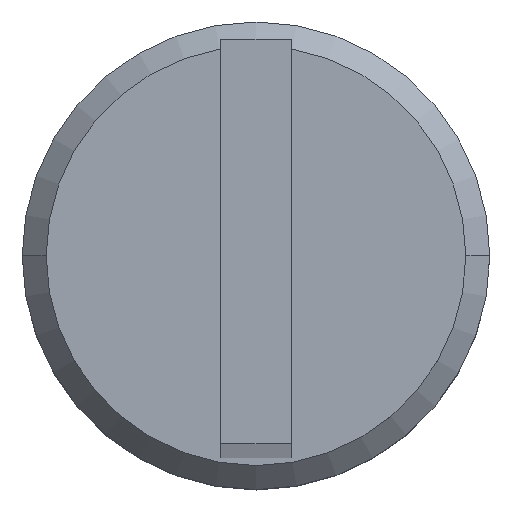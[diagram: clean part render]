
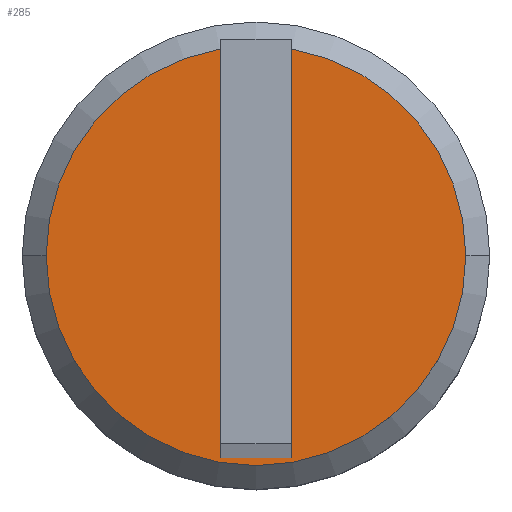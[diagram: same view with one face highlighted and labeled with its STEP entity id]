
A CAD part, top view. The second image highlights one B-rep face of the part: STEP entity #285.
In plain terms, the highlighted planar face has unit normal (0, 0, 1).
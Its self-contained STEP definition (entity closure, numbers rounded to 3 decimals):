
#96 = DIRECTION ( 'NONE',  ( 0., 0., 1. ) ) ;
#97 = CARTESIAN_POINT ( 'NONE',  ( 0., 0., 10. ) ) ;
#260 = EDGE_CURVE ( 'NONE', #1039, #1061, #351, .T. ) ;
#285 = ADVANCED_FACE ( 'NONE', ( #300 ), #1741, .F. ) ;
#297 = EDGE_CURVE ( 'NONE', #1061, #1039, #1159, .T. ) ;
#300 = FACE_OUTER_BOUND ( 'NONE', #1019, .T. ) ;
#351 = CIRCLE ( 'NONE', #1682, 7.475 ) ;
#422 = ORIENTED_EDGE ( 'NONE', *, *, #297, .T. ) ;
#423 = ORIENTED_EDGE ( 'NONE', *, *, #260, .T. ) ;
#672 = DIRECTION ( 'NONE',  ( 1., 0., 0. ) ) ;
#1019 = EDGE_LOOP ( 'NONE', ( #423, #422 ) ) ;
#1039 = VERTEX_POINT ( 'NONE', #1495 ) ;
#1061 = VERTEX_POINT ( 'NONE', #1513 ) ;
#1159 = CIRCLE ( 'NONE', #1353, 7.475 ) ;
#1353 = AXIS2_PLACEMENT_3D ( 'NONE', #1629, #1624, #1616 ) ;
#1465 = AXIS2_PLACEMENT_3D ( 'NONE', #1714, #1713, #1711 ) ;
#1495 = CARTESIAN_POINT ( 'NONE',  ( 7.475, 0., 10. ) ) ;
#1513 = CARTESIAN_POINT ( 'NONE',  ( -7.475, 0., 10. ) ) ;
#1616 = DIRECTION ( 'NONE',  ( 1., 0., 0. ) ) ;
#1624 = DIRECTION ( 'NONE',  ( 0., 0., 1. ) ) ;
#1629 = CARTESIAN_POINT ( 'NONE',  ( 0., 0., 10. ) ) ;
#1682 = AXIS2_PLACEMENT_3D ( 'NONE', #97, #96, #672 ) ;
#1711 = DIRECTION ( 'NONE',  ( -1., 0., 0. ) ) ;
#1713 = DIRECTION ( 'NONE',  ( 0., 0., -1. ) ) ;
#1714 = CARTESIAN_POINT ( 'NONE',  ( 7.475, 0., 10. ) ) ;
#1741 = PLANE ( 'NONE',  #1465 ) ;
